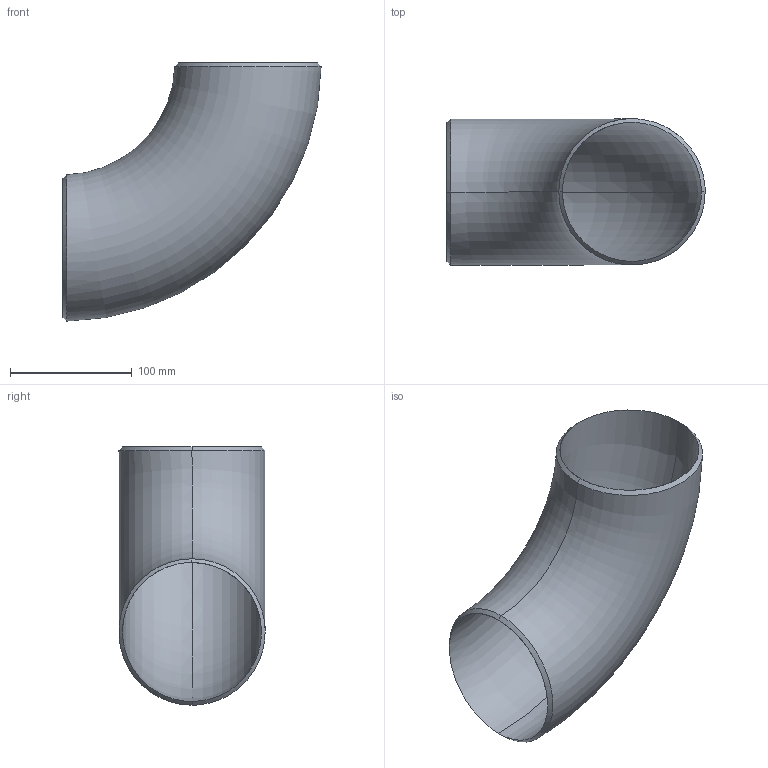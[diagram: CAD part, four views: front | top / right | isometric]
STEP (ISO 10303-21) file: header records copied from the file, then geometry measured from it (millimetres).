
FILE_DESCRIPTION (( 'STEP AP203' ), '1' );
FILE_NAME ('3D_R2651_4X10S_173421200_173425210.STEP', '2024-08-22T09:05:46', ( '' ), ( '' ), 'SwSTEP 2.0', 'SolidWorks 2024', '' );
FILE_SCHEMA (( 'CONFIG_CONTROL_DESIGN' ));
Length unit declared in the file: millimetre
Products named in the file (1): 3D_R2651_4X10S_173421200_173425210
Bounding box: 212.58 x 120.28 x 212.58 mm (x, y, z)
Volume: 260356.1 mm3; surface area: 176728.4 mm2
Topology: 1 solids, 1 shells, 10 faces, 26 edges, 16 vertices
Faces by surface type: bspline 4, torus 4, plane 2
Entity records: 3883 total; most frequent: CARTESIAN_POINT 3597, ORIENTED_EDGE 52, DIRECTION 30, EDGE_CURVE 26, B_SPLINE_CURVE_WITH_KNOTS 18, VERTEX_POINT 16, AXIS2_PLACEMENT_3D 15, FACE_OUTER_BOUND 10
